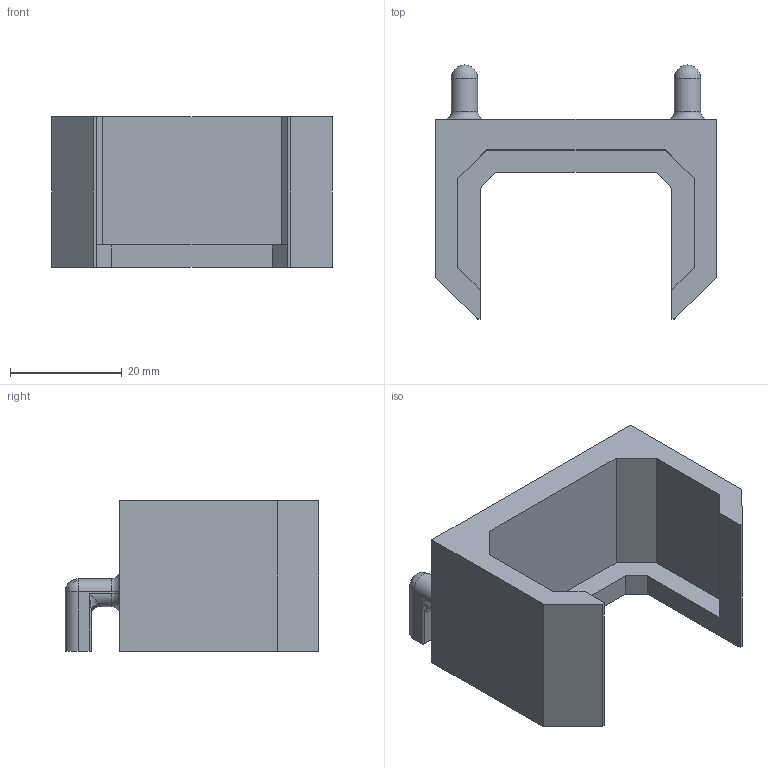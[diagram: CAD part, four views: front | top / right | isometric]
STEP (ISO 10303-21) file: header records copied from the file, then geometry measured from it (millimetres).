
FILE_DESCRIPTION(/* description */ (''),/* implementation_level */ '2;1');
FILE_NAME(/* name */ 'skadis blower basic.step',/* time_stamp */ '2025-11-29T19:54:06Z',/* author */ (''),/* organization */ (''),/* preprocessor_version */ 'ST-DEVELOPER v20.1',/* originating_system */ 'Autodesk Translation Framework v14.21.0.0',/* authorisation */ '');
FILE_SCHEMA (('AUTOMOTIVE_DESIGN { 1 0 10303 214 3 1 1 }'));
Length unit declared in the file: millimetre
Products named in the file (1): skadis blower
Bounding box: 50.4 x 45.55 x 27 mm (x, y, z)
Volume: 16621.4 mm3; surface area: 8361.6 mm2
Topology: 1 solids, 1 shells, 56 faces, 144 edges, 84 vertices
Faces by surface type: plane 30, cylinder 14, torus 6, bspline 4, sphere 2
Entity records: 1831 total; most frequent: CARTESIAN_POINT 489, ORIENTED_EDGE 272, DIRECTION 268, EDGE_CURVE 136, LINE 94, VECTOR 94, AXIS2_PLACEMENT_3D 87, VERTEX_POINT 84
